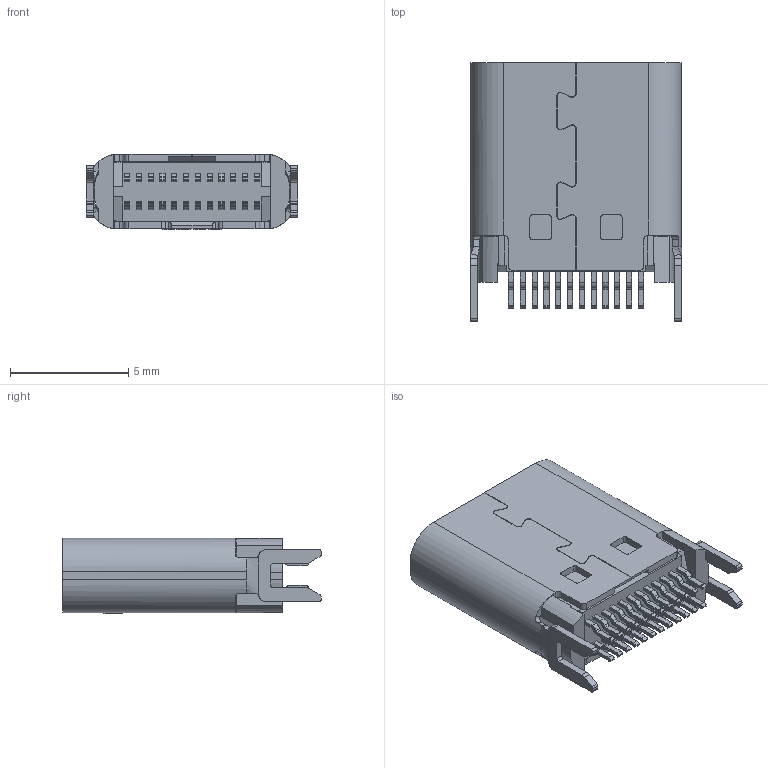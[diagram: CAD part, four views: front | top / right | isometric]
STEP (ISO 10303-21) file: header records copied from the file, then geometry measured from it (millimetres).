
FILE_DESCRIPTION (( 'STEP AP214' ), '1' );
FILE_NAME ('U5214-24PN1.0B9.3L.STEP', '2026-08-04T05:54:28', ( '' ), ( '' ), 'SwSTEP 2.0', 'SolidWorks 2024', '' );
FILE_SCHEMA (( 'AUTOMOTIVE_DESIGN' ));
Length unit declared in the file: millimetre
Products named in the file (1): U5214-24PN1.0B9.3L
Bounding box: 8.94 x 10.95 x 3.19 mm (x, y, z)
Volume: 156 mm3; surface area: 600 mm2
Topology: 1 solids, 1 shells, 1003 faces, 2861 edges, 1892 vertices
Faces by surface type: plane 672, cylinder 274, bspline 41, cone 8, torus 8
Entity records: 34509 total; most frequent: CARTESIAN_POINT 8151, ORIENTED_EDGE 5722, DIRECTION 5220, EDGE_CURVE 2861, VECTOR 2158, LINE 2158, VERTEX_POINT 1892, AXIS2_PLACEMENT_3D 1531
